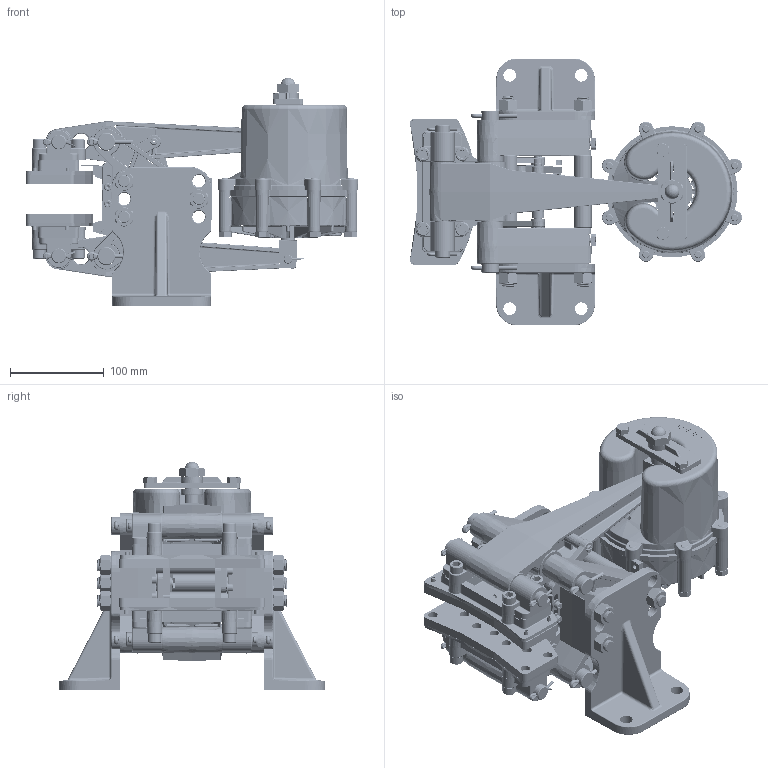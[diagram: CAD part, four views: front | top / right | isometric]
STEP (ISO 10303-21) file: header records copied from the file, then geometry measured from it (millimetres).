
FILE_DESCRIPTION (( 'STEP AP214' ), '1' );
FILE_NAME ('5020-SAW-LH.STEP', '2016-06-02T17:32:23', ( 'User' ), ( 'Microsoft' ), 'SwSTEP 2.0', 'SolidWorks 2015', '' );
FILE_SCHEMA (( 'AUTOMOTIVE_DESIGN' ));
Length unit declared in the file: inch
Products named in the file (1): 5020-SAW-LH
Bounding box: 353.99 x 284.48 x 243.46 mm (x, y, z)
Surface area: 640255.4 mm2 (no closed solid volume)
Topology: 0 solids, 159 shells, 3028 faces, 9643 edges, 6444 vertices
Faces by surface type: cylinder 840, plane 825, cone 599, torus 395, bspline 348, sphere 21
Entity records: 173286 total; most frequent: CARTESIAN_POINT 54893, DIRECTION 16304, ORIENTED_EDGE 15360, EDGE_CURVE 9583, AXIS2_PLACEMENT_3D 6508, VERTEX_POINT 6444, CIRCLE 3827, EDGE_LOOP 3352
